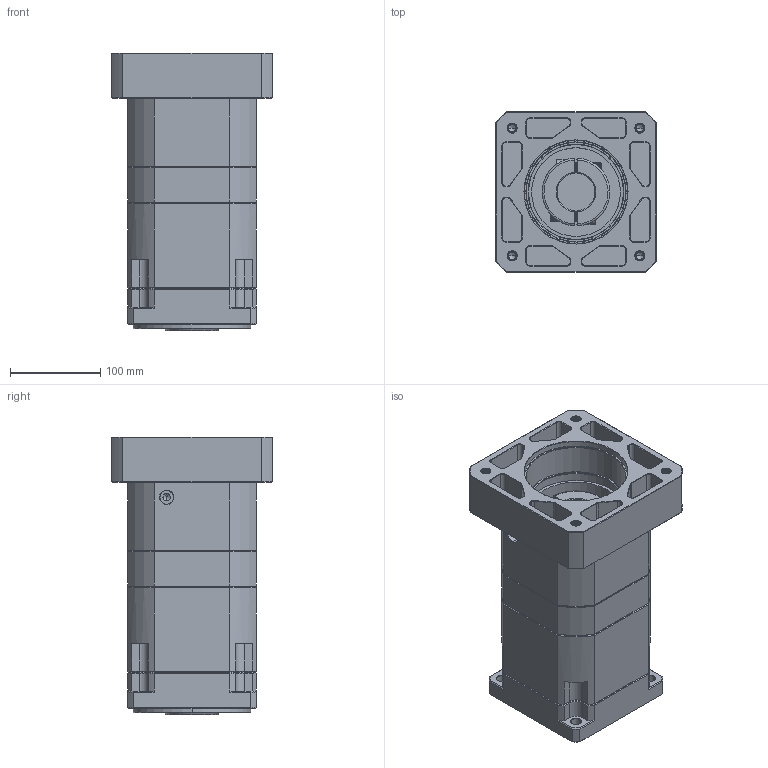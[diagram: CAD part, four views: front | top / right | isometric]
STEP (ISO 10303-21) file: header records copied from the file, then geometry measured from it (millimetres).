
FILE_DESCRIPTION (( 'STEP AP214' ), '1' );
FILE_NAME ('ZB142A-K35-L3-P2-42-114.3-200-M12.step', '2023-09-01T11:49:16', ( '' ), ( '' ), 'SwSTEP 2.0', 'SolidWorks 2016', '' );
FILE_SCHEMA (( 'AUTOMOTIVE_DESIGN' ));
Length unit declared in the file: millimetre
Products named in the file (1): ZB142A-K35-L3-P2-42-114.3-200-M12
Bounding box: 178 x 178 x 307.2 mm (x, y, z)
Volume: 5073321.2 mm3; surface area: 407180.4 mm2
Topology: 6 solids, 6 shells, 2417 faces, 6316 edges, 4013 vertices
Faces by surface type: plane 1195, cylinder 416, bspline 402, cone 384, torus 20
Entity records: 127026 total; most frequent: CARTESIAN_POINT 44145, ORIENTED_EDGE 12576, DIRECTION 10192, EDGE_CURVE 6288, VECTOR 4088, LINE 4088, VERTEX_POINT 4013, AXIS2_PLACEMENT_3D 3052
